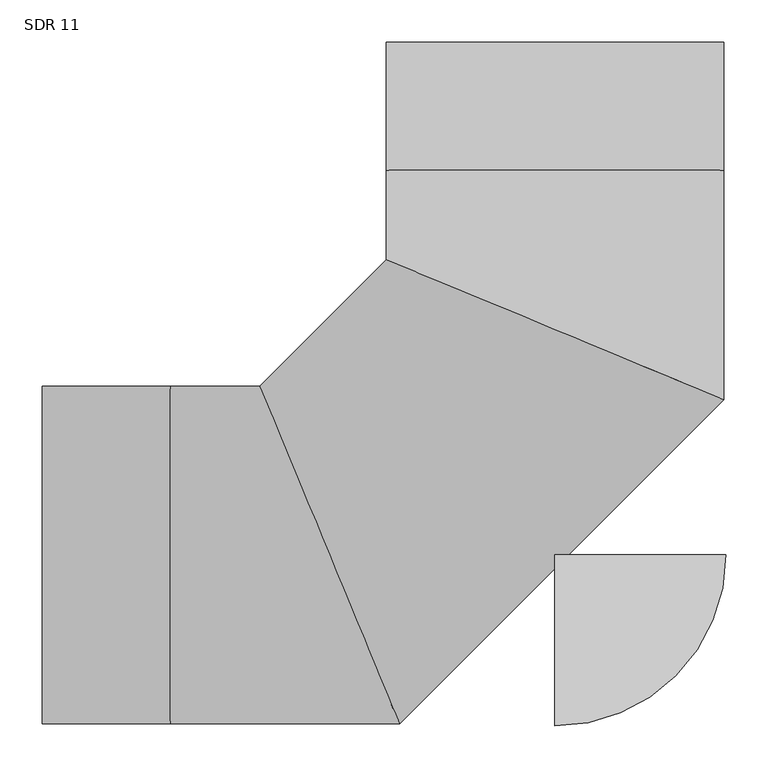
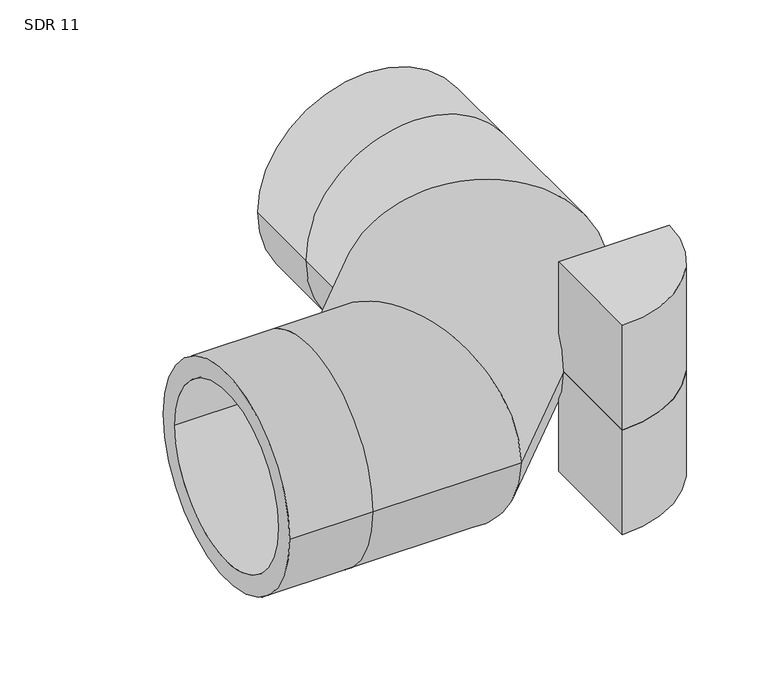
"""IFC4 building model written with IfcOpenShell, lengths in millimetres: pipe fitting geometry, Aquatherm - Elbow Blue BW Segmented : SDR 11."""

from ifc_helpers import new_model, si_unit, point, frame, origin, origin_with_axes, origin_2d, place, context, project, spatial, polyline, circle_curve, ellipse_curve, trimmed, segment, composite_curve, outline, extrude, source, transform, mapped, element, save
from ifc_brep_helpers import plane_surface, cylinder_surface, revolved_surface, advanced_brep


def sdr_11_b063d467(model_context):
    return source(origin(), model_context, "Body", "SolidModel", [
        extrude(outline(composite_curve([segment(polyline([(0.0, -203.2), (0.0, 0.0), (203.2, 0.0)]), True, "CONTINUOUS"), segment(trimmed(circle_curve(origin_2d(), 203.2), [point((203.2, 0.0))], [point((0.0, -203.2))], False, "CARTESIAN"), True, "CONTINUOUS")], self_intersect=False)), frame((0.0, 0.0, -203.2), z_axis=(0.0, 0.0, 1.0), x_axis=(1.0, 0.0, 0.0)), (0.0, 0.0, 1.0), 203.2),
        extrude(outline(composite_curve([segment(trimmed(circle_curve(origin_2d(), 203.2), [point((203.2, 0.0))], [point((0.0, -203.2))], False, "CARTESIAN"), True, "CONTINUOUS"), segment(polyline([(0.0, -203.2), (0.0, 0.0), (203.2, 0.0)]), True, "CONTINUOUS")], self_intersect=False)), origin_with_axes(), (0.0, 0.0, 1.0), 203.2),
        advanced_brep(
        [(-609.6, -200.66, 0.0), (-609.6, 200.66, 0.0), (-609.6, -164.1763636, 0.0), (-609.6, 164.1763636, 0.0), (200.66, 609.6, 0.0), (-200.66, 609.6, 0.0), (164.1763636, 609.6, 0.0), (-164.1763636, 609.6, 0.0), (-457.2, -200.66, 0.0), (-457.2, 200.66, 0.0), (-457.2, -164.1763636, 0.0), (-457.2, 164.1763636, 0.0), (-184.7054659, -200.66, 0.0), (-350.9376527, 200.66, 0.0), (-199.8174828, -164.1763636, 0.0), (-335.8256357, 164.1763636, 0.0), (200.66, 184.7054659, 0.0), (-200.66, 350.9376527, 0.0), (164.1763636, 199.8174828, 0.0), (-164.1763636, 335.8256357, 0.0), (-200.66, 457.2, 0.0), (200.66, 457.2, 0.0), (-164.1763636, 457.2, 0.0), (164.1763636, 457.2, 0.0)],
        [
            (0, 1, circle_curve(frame((-609.6, 0.0, 0.0), z_axis=(-1.0, 0.0, 0.0), x_axis=(0.0, 1.0, 0.0)), 200.66)),
            (1, 0, circle_curve(frame((-609.6, 0.0, 0.0), z_axis=(-1.0, 0.0, 0.0), x_axis=(0.0, 1.0, 0.0)), 200.66)),
            (2, 3, circle_curve(frame((-609.6, 0.0, 0.0), z_axis=(1.0, 0.0, 0.0), x_axis=(0.0, 1.0, 0.0)), 164.1763636)),
            (3, 2, circle_curve(frame((-609.6, 0.0, 0.0), z_axis=(1.0, 0.0, 0.0), x_axis=(0.0, 1.0, 0.0)), 164.1763636)),
            (4, 5, circle_curve(frame((0.0, 609.6, 0.0), z_axis=(0.0, 1.0, 0.0), x_axis=(-1.0, 0.0, 0.0)), 200.66)),
            (5, 4, circle_curve(frame((0.0, 609.6, 0.0), z_axis=(0.0, 1.0, 0.0), x_axis=(-1.0, 0.0, 0.0)), 200.66)),
            (6, 7, circle_curve(frame((0.0, 609.6, 0.0), z_axis=(0.0, -1.0, 0.0), x_axis=(-1.0, 0.0, 0.0)), 164.1763636)),
            (7, 6, circle_curve(frame((0.0, 609.6, 0.0), z_axis=(0.0, -1.0, 0.0), x_axis=(-1.0, 0.0, 0.0)), 164.1763636)),
            (0, 8),
            (8, 9, circle_curve(frame((-457.2, 0.0, 0.0), z_axis=(-1.0, 0.0, 0.0), x_axis=(0.0, 1.0, 0.0)), 200.66)),
            (9, 1),
            (9, 8, circle_curve(frame((-457.2, 0.0, 0.0), z_axis=(-1.0, 0.0, 0.0), x_axis=(0.0, 1.0, 0.0)), 200.66)),
            (2, 10),
            (10, 11, circle_curve(frame((-457.2, 0.0, 0.0), z_axis=(1.0, 0.0, 0.0), x_axis=(0.0, 1.0, 0.0)), 164.1763636)),
            (11, 3),
            (11, 10, circle_curve(frame((-457.2, 0.0, 0.0), z_axis=(1.0, 0.0, 0.0), x_axis=(0.0, 1.0, 0.0)), 164.1763636)),
            (8, 12),
            (12, 13, ellipse_curve(frame((-267.8215593, 0.0, 0.0), z_axis=(-0.9238795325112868, -0.3826834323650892, 0.0), x_axis=(-0.3826834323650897, 0.9238795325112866, 0.0)), 217.1928189, 200.66)),
            (13, 9),
            (13, 12, ellipse_curve(frame((-267.8215593, 0.0, 0.0), z_axis=(-0.9238795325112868, -0.3826834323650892, 0.0), x_axis=(-0.3826834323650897, 0.9238795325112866, 0.0)), 217.1928189, 200.66)),
            (10, 14),
            (14, 15, ellipse_curve(frame((-267.8215593, 0.0, 0.0), z_axis=(0.9238795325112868, 0.3826834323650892, 0.0), x_axis=(0.3826834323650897, -0.9238795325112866, 0.0)), 177.7032155, 164.1763636)),
            (15, 11),
            (15, 14, ellipse_curve(frame((-267.8215593, 0.0, 0.0), z_axis=(0.9238795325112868, 0.3826834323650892, 0.0), x_axis=(0.3826834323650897, -0.9238795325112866, 0.0)), 177.7032155, 164.1763636)),
            (12, 16),
            (16, 17, ellipse_curve(frame((0.0, 267.8215593, 0.0), z_axis=(-0.3826834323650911, -0.9238795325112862, 0.0), x_axis=(-0.9238795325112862, 0.382683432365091, 0.0)), 217.1928189, 200.66)),
            (17, 13),
            (17, 16, ellipse_curve(frame((0.0, 267.8215593, 0.0), z_axis=(-0.3826834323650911, -0.9238795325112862, 0.0), x_axis=(-0.9238795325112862, 0.382683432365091, 0.0)), 217.1928189, 200.66)),
            (14, 18),
            (18, 19, ellipse_curve(frame((0.0, 267.8215593, 0.0), z_axis=(0.3826834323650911, 0.9238795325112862, 0.0), x_axis=(0.9238795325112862, -0.382683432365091, 0.0)), 177.7032155, 164.1763636)),
            (19, 15),
            (19, 18, ellipse_curve(frame((0.0, 267.8215593, 0.0), z_axis=(0.3826834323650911, 0.9238795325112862, 0.0), x_axis=(0.9238795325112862, -0.382683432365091, 0.0)), 177.7032155, 164.1763636)),
            (20, 21, circle_curve(frame((0.0, 457.2, 0.0), z_axis=(0.0, 1.0, 0.0), x_axis=(-1.0, 0.0, 0.0)), 200.66)),
            (21, 4),
            (5, 20),
            (21, 20, circle_curve(frame((0.0, 457.2, 0.0), z_axis=(0.0, 1.0, 0.0), x_axis=(-1.0, 0.0, 0.0)), 200.66)),
            (22, 23, circle_curve(frame((0.0, 457.2, 0.0), z_axis=(0.0, -1.0, 0.0), x_axis=(-1.0, 0.0, 0.0)), 164.1763636)),
            (23, 6),
            (7, 22),
            (23, 22, circle_curve(frame((0.0, 457.2, 0.0), z_axis=(0.0, -1.0, 0.0), x_axis=(-1.0, 0.0, 0.0)), 164.1763636)),
            (16, 21),
            (20, 17),
            (18, 23),
            (22, 19),
        ],
        [
            plane_surface(frame((-609.6, 0.0, 0.0), z_axis=(-1.0, 0.0, 0.0), x_axis=(0.0, 0.0, 1.0))),
            plane_surface(frame((0.0, 609.6, 0.0), z_axis=(0.0, 1.0, 0.0), x_axis=(0.0, 0.0, 1.0))),
            cylinder_surface(frame((-609.6, 0.0, 0.0), z_axis=(-1.0, 0.0, 0.0), x_axis=(0.0, 1.0, 0.0)), 200.66),
            revolved_surface(polyline([(-457.2, 164.1763636, 0.0), (-609.6, 164.1763636, 0.0)]), (-609.6, 0.0, 0.0), (1.0, 0.0, 0.0)),
            cylinder_surface(frame((-457.2, 0.0, 0.0), z_axis=(-1.0, 0.0, 0.0), x_axis=(0.0, 1.0, 0.0)), 200.66),
            revolved_surface(polyline([(-199.8174828, 164.1763636, 0.0), (-457.2, 164.1763636, 0.0)]), (-457.2, 0.0, 0.0), (1.0, 0.0, 0.0)),
            cylinder_surface(frame((-267.8215593, 0.0, 0.0), z_axis=(-0.7071067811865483, -0.7071067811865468, 0.0), x_axis=(-0.7071067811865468, 0.7071067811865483, 0.0)), 200.66),
            revolved_surface(polyline([(-68.00407640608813, 431.99792291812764, 0.0), (-431.99792291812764, 68.00407640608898, 0.0)]), (-267.8215593, 0.0, 0.0), (0.7071067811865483, 0.7071067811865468, 0.0)),
            cylinder_surface(frame((0.0, 457.2, 0.0), z_axis=(0.0, -1.0, 0.0), x_axis=(-1.0, 0.0, 0.0)), 200.66),
            revolved_surface(polyline([(-164.1763636, 609.6, 0.0), (-164.1763636, 457.2, 0.0)]), (0.0, 457.2, 0.0), (0.0, 1.0, 0.0)),
            cylinder_surface(frame((0.0, 267.8215593, 0.0), z_axis=(0.0, -1.0, 0.0), x_axis=(-1.0, 0.0, 0.0)), 200.66),
            revolved_surface(polyline([(-164.1763636, 457.2, 0.0), (-164.1763636, 199.8174828, 0.0)]), (0.0, 267.8215593, 0.0), (0.0, 1.0, 0.0)),
        ],
        [
            (0, [[1, 2], [3, 4]]),
            (1, [[5, 6], [7, 8]]),
            (2, [[-1, 9, 10, 11]]),
            (2, [[-2, -11, 12, -9]]),
            (3, [[-3, 13, 14, 15]]),
            (3, [[-4, -15, 16, -13]]),
            (4, [[-10, 17, 18, 19]]),
            (4, [[-12, -19, 20, -17]]),
            (5, [[-14, 21, 22, 23]]),
            (5, [[-16, -23, 24, -21]]),
            (6, [[-18, 25, 26, 27]]),
            (6, [[-20, -27, 28, -25]]),
            (7, [[-22, 29, 30, 31]]),
            (7, [[-24, -31, 32, -29]]),
            (8, [[33, 34, -6, 35]]),
            (8, [[36, -35, -5, -34]]),
            (9, [[37, 38, -8, 39]]),
            (9, [[40, -39, -7, -38]]),
            (10, [[-26, 41, -33, 42]]),
            (10, [[-28, -42, -36, -41]]),
            (11, [[-30, 43, -37, 44]]),
            (11, [[-32, -44, -40, -43]]),
        ],
    ),
    ])


if __name__ == "__main__":
    model = new_model("IFC4")
    model_context = context("Model", 3, world=origin())
    ifc_project = project(units=[si_unit("LENGTHUNIT", "METRE", prefix="MILLI")], contexts=[model_context])
    site = spatial("IfcSite", under=ifc_project)
    building = spatial("IfcBuilding", under=site)
    placement = place(None, origin())
    sdr_11_shape = sdr_11_b063d467(model_context)
    element("IfcPipeFitting", 1, ObjectType="Aquatherm - Elbow Blue BW Segmented : SDR 11", at=placement, inside=building, context=model_context, shape_type="MappedRepresentation", body=[
        mapped(sdr_11_shape, transform((0.0, 0.0, 0.0), x_axis=(1.0, 0.0, 0.0), y_axis=(0.0, 1.0, 0.0), z_axis=(0.0, 0.0, 1.0))),
    ])
    save(model, "model.ifc")
